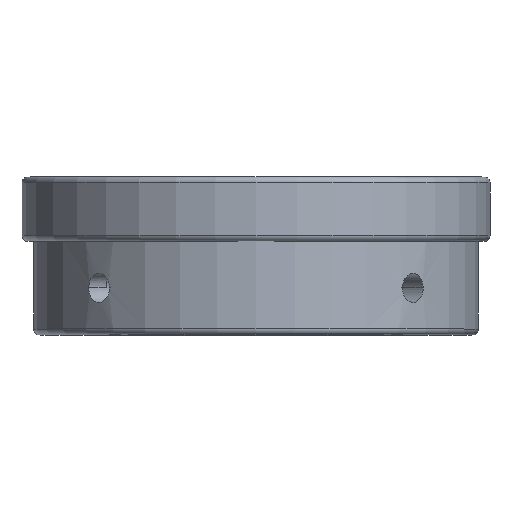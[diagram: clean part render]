
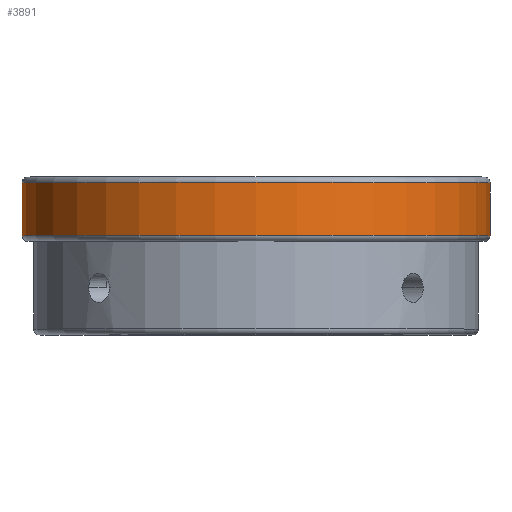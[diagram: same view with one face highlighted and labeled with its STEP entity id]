
A CAD part, top view. The second image highlights one B-rep face of the part: STEP entity #3891.
In plain terms, the highlighted cylindrical face has radius 20 mm (diameter 40 mm), a partial arc.
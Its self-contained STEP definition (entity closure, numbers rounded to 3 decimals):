
#307 = CARTESIAN_POINT ( 'NONE',  ( 0., -5., 0. ) ) ;
#358 = VERTEX_POINT ( 'NONE', #3403 ) ;
#507 = CARTESIAN_POINT ( 'NONE',  ( -20., -0.5, 0. ) ) ;
#913 = VERTEX_POINT ( 'NONE', #7557 ) ;
#1116 = AXIS2_PLACEMENT_3D ( 'NONE', #3235, #1423, #4437 ) ;
#1160 = ORIENTED_EDGE ( 'NONE', *, *, #2304, .T. ) ;
#1168 = EDGE_LOOP ( 'NONE', ( #7091, #1160, #6224, #7080 ) ) ;
#1202 = FACE_OUTER_BOUND ( 'NONE', #1168, .T. ) ;
#1423 = DIRECTION ( 'NONE',  ( 0., 1., 0. ) ) ;
#1825 = CIRCLE ( 'NONE', #7575, 20. ) ;
#2304 = EDGE_CURVE ( 'NONE', #4686, #2534, #1825, .T. ) ;
#2534 = VERTEX_POINT ( 'NONE', #2941 ) ;
#2820 = DIRECTION ( 'NONE',  ( 0., 1., 0. ) ) ;
#2899 = DIRECTION ( 'NONE',  ( -1., 0., 0. ) ) ;
#2941 = CARTESIAN_POINT ( 'NONE',  ( 20., -5., 0. ) ) ;
#3235 = CARTESIAN_POINT ( 'NONE',  ( 0., -0.5, 0. ) ) ;
#3403 = CARTESIAN_POINT ( 'NONE',  ( 20., -0.5, 0. ) ) ;
#3710 = DIRECTION ( 'NONE',  ( -1., 0., 0. ) ) ;
#3789 = CARTESIAN_POINT ( 'NONE',  ( 0., 0., 0. ) ) ;
#3832 = CYLINDRICAL_SURFACE ( 'NONE', #7648, 20. ) ;
#3891 = ADVANCED_FACE ( 'NONE', ( #1202 ), #3832, .T. ) ;
#4270 = CIRCLE ( 'NONE', #1116, 20. ) ;
#4437 = DIRECTION ( 'NONE',  ( -1., 0., 0. ) ) ;
#4686 = VERTEX_POINT ( 'NONE', #6600 ) ;
#5018 = DIRECTION ( 'NONE',  ( 0., -1., 0. ) ) ;
#5745 = DIRECTION ( 'NONE',  ( 0., -1., 0. ) ) ;
#5786 = VECTOR ( 'NONE', #7320, 1000. ) ;
#6167 = LINE ( 'NONE', #507, #5786 ) ;
#6224 = ORIENTED_EDGE ( 'NONE', *, *, #6399, .F. ) ;
#6291 = EDGE_CURVE ( 'NONE', #913, #4686, #6167, .T. ) ;
#6309 = VECTOR ( 'NONE', #5745, 1000. ) ;
#6399 = EDGE_CURVE ( 'NONE', #358, #2534, #6936, .T. ) ;
#6600 = CARTESIAN_POINT ( 'NONE',  ( -20., -5., 0. ) ) ;
#6936 = LINE ( 'NONE', #7054, #6309 ) ;
#7054 = CARTESIAN_POINT ( 'NONE',  ( 20., -0.5, 0. ) ) ;
#7080 = ORIENTED_EDGE ( 'NONE', *, *, #7852, .F. ) ;
#7091 = ORIENTED_EDGE ( 'NONE', *, *, #6291, .T. ) ;
#7320 = DIRECTION ( 'NONE',  ( 0., -1., 0. ) ) ;
#7557 = CARTESIAN_POINT ( 'NONE',  ( -20., -0.5, 0. ) ) ;
#7575 = AXIS2_PLACEMENT_3D ( 'NONE', #307, #2820, #2899 ) ;
#7648 = AXIS2_PLACEMENT_3D ( 'NONE', #3789, #5018, #3710 ) ;
#7852 = EDGE_CURVE ( 'NONE', #913, #358, #4270, .T. ) ;
